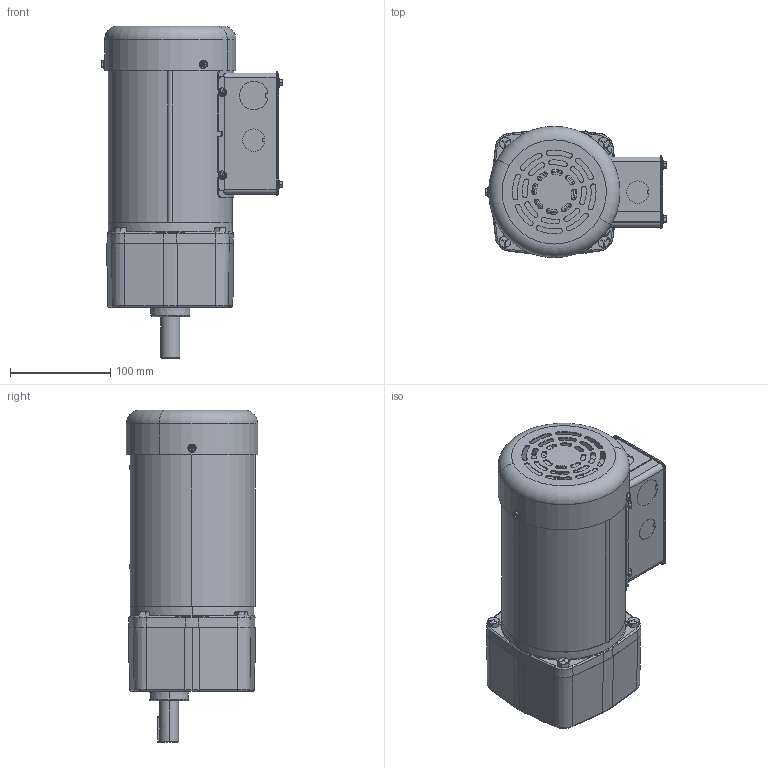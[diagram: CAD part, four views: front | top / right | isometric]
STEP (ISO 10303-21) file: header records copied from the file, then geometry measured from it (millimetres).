
FILE_DESCRIPTION (( 'STEP AP203' ), '1' );
FILE_NAME ('027874-096067_Rev04.STEP', '2017-10-23T04:49:39', ( '' ), ( '' ), 'SwSTEP 2.0', 'SolidWorks 2015', '' );
FILE_SCHEMA (( 'CONFIG_CONTROL_DESIGN' ));
Length unit declared in the file: inch
Products named in the file (1): 027874-096067_Rev04
Bounding box: 180.39 x 131.06 x 331.06 mm (x, y, z)
Volume: 836924.5 mm3; surface area: 472928.6 mm2
Topology: 31 solids, 31 shells, 3050 faces, 7320 edges, 4355 vertices
Faces by surface type: cylinder 768, plane 750, bspline 677, cone 383, torus 368, sphere 104
Entity records: 113554 total; most frequent: CARTESIAN_POINT 47594, ORIENTED_EDGE 14416, DIRECTION 13113, EDGE_CURVE 7208, AXIS2_PLACEMENT_3D 5516, VERTEX_POINT 4345, EDGE_LOOP 3307, CIRCLE 3142
